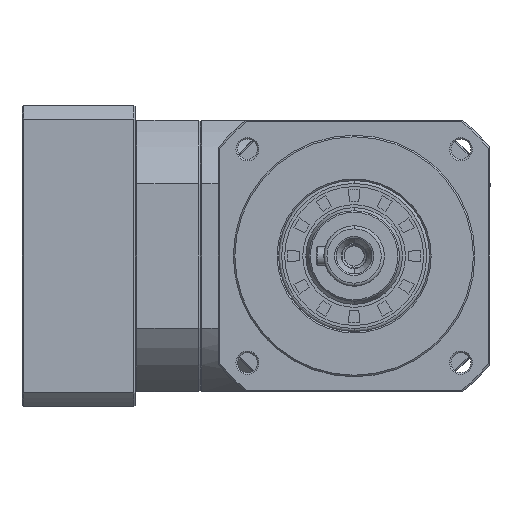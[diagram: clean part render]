
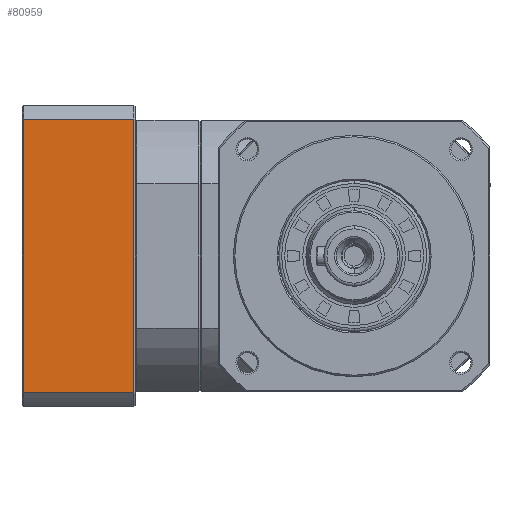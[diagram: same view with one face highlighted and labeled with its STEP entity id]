
A CAD part, left-side view. The second image highlights one B-rep face of the part: STEP entity #80959.
In plain terms, the highlighted planar face has unit normal (1, 0, 0).
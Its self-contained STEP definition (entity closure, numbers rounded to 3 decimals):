
#3085 = PLANE ( 'NONE',  #74062 ) ;
#5433 = VECTOR ( 'NONE', #32966, 1000. ) ;
#5924 = EDGE_CURVE ( 'NONE', #43206, #31836, #77677, .T. ) ;
#6037 = ORIENTED_EDGE ( 'NONE', *, *, #51479, .T. ) ;
#6073 = CARTESIAN_POINT ( 'NONE',  ( 69., 73., 45.346 ) ) ;
#9810 = EDGE_CURVE ( 'NONE', #74729, #77661, #75054, .T. ) ;
#10404 = DIRECTION ( 'NONE',  ( -1., 0., 0. ) ) ;
#18444 = VECTOR ( 'NONE', #58406, 1000. ) ;
#23128 = EDGE_CURVE ( 'NONE', #74729, #31836, #46574, .T. ) ;
#27152 = VECTOR ( 'NONE', #64824, 1000. ) ;
#28830 = CARTESIAN_POINT ( 'NONE',  ( 69., 91.25, -45.346 ) ) ;
#31836 = VERTEX_POINT ( 'NONE', #63509 ) ;
#32966 = DIRECTION ( 'NONE',  ( 0., 0., 1. ) ) ;
#34478 = ORIENTED_EDGE ( 'NONE', *, *, #5924, .F. ) ;
#34575 = CARTESIAN_POINT ( 'NONE',  ( 69., 109.5, 0. ) ) ;
#37750 = ORIENTED_EDGE ( 'NONE', *, *, #23128, .T. ) ;
#43206 = VERTEX_POINT ( 'NONE', #67933 ) ;
#46574 = LINE ( 'NONE', #28830, #27152 ) ;
#51479 = EDGE_CURVE ( 'NONE', #43206, #77661, #56134, .T. ) ;
#54117 = CARTESIAN_POINT ( 'NONE',  ( 69., 73., -45.346 ) ) ;
#56134 = LINE ( 'NONE', #63166, #18444 ) ;
#57431 = CARTESIAN_POINT ( 'NONE',  ( 69., 73., -45.346 ) ) ;
#58406 = DIRECTION ( 'NONE',  ( 0., -1., 0. ) ) ;
#59498 = VECTOR ( 'NONE', #93188, 1000. ) ;
#63166 = CARTESIAN_POINT ( 'NONE',  ( 69., 91.25, 45.346 ) ) ;
#63509 = CARTESIAN_POINT ( 'NONE',  ( 69., 109.5, -45.346 ) ) ;
#63664 = EDGE_LOOP ( 'NONE', ( #37750, #34478, #6037, #91977 ) ) ;
#64614 = FACE_OUTER_BOUND ( 'NONE', #63664, .T. ) ;
#64824 = DIRECTION ( 'NONE',  ( 0., 1., 0. ) ) ;
#67175 = DIRECTION ( 'NONE',  ( 0., 0., 1. ) ) ;
#67933 = CARTESIAN_POINT ( 'NONE',  ( 69., 109.5, 45.346 ) ) ;
#70476 = CARTESIAN_POINT ( 'NONE',  ( 69., 73., 0. ) ) ;
#74062 = AXIS2_PLACEMENT_3D ( 'NONE', #54117, #10404, #67175 ) ;
#74729 = VERTEX_POINT ( 'NONE', #57431 ) ;
#75054 = LINE ( 'NONE', #70476, #5433 ) ;
#77661 = VERTEX_POINT ( 'NONE', #6073 ) ;
#77677 = LINE ( 'NONE', #34575, #59498 ) ;
#80959 = ADVANCED_FACE ( 'NONE', ( #64614 ), #3085, .F. ) ;
#91977 = ORIENTED_EDGE ( 'NONE', *, *, #9810, .F. ) ;
#93188 = DIRECTION ( 'NONE',  ( 0., 0., -1. ) ) ;
